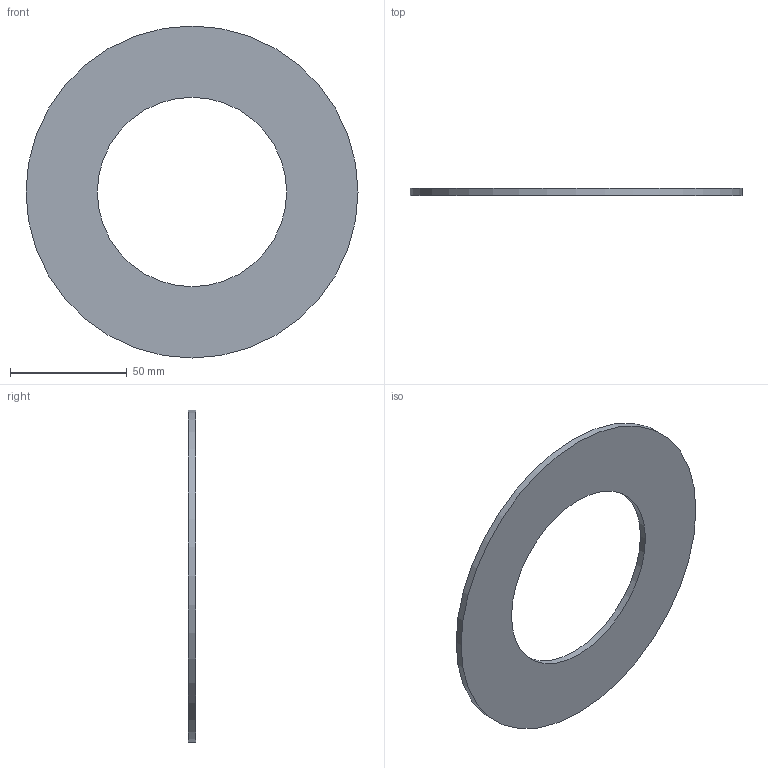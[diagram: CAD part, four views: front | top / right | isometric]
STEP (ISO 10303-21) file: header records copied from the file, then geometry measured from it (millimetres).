
FILE_DESCRIPTION(/* description */ ('Unknown'),/* implementation_level */ '2;1');
FILE_NAME(/* name */ 'GUA.090B',/* time_stamp */ '2021-04-01T11:30:53+02:00',/* author */ ('Unknown'),/* organization */ ('Unknown'),/* preprocessor_version */ 'ST-DEVELOPER v16.7',/* originating_system */ 'Solid Edge',/* authorisation */ 'Unknown');
FILE_SCHEMA (('AUTOMOTIVE_DESIGN {1 0 10303 214 3 1 1}'));
Length unit declared in the file: millimetre
Products named in the file (1): GUA.090B
Bounding box: 142 x 3 x 142 mm (x, y, z)
Volume: 32051.3 mm3; surface area: 23469.3 mm2
Topology: 1 solids, 1 shells, 4 faces, 6 edges, 4 vertices
Faces by surface type: cylinder 2, plane 2
Full cylindrical faces by diameter (mm): 81 x1, 142 x1
Entity records: 118 total; most frequent: DIRECTION 18, CARTESIAN_POINT 13, AXIS2_PLACEMENT_3D 9, ORIENTED_EDGE 8, EDGE_LOOP 8, FACE_BOUND 8, EDGE_CURVE 4, VERTEX_POINT 4
